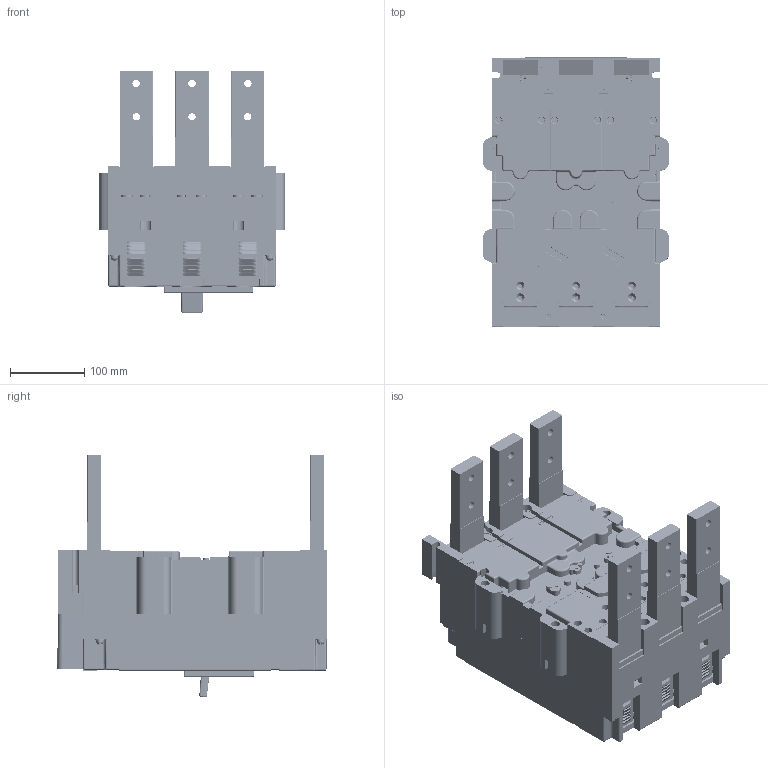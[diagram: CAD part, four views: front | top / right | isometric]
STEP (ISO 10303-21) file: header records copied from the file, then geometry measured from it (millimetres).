
FILE_DESCRIPTION (( 'STEP AP203' ), '1' );
FILE_NAME ('臍53-41 ж.STEP', '2016-09-28T10:32:38', ( 'admin' ), ( '' ), 'SwSTEP 2.0', 'SolidWorks 2012', '' );
FILE_SCHEMA (( 'CONFIG_CONTROL_DESIGN' ));
Products named in the file (1): 臍53-41 ж
Bounding box: 250 x 362.27 x 326.87 mm (x, y, z)
Volume: 11815334.6 mm3; surface area: 1420182.3 mm2
Topology: 106 solids, 108 shells, 7556 faces, 19151 edges, 12138 vertices
Faces by surface type: plane 3740, cylinder 1961, bspline 1187, cone 461, torus 173, sphere 34
Entity records: 276390 total; most frequent: CARTESIAN_POINT 101442, ORIENTED_EDGE 38170, DIRECTION 33038, EDGE_CURVE 19085, VERTEX_POINT 12138, LINE 11898, VECTOR 11898, AXIS2_PLACEMENT_3D 10570
